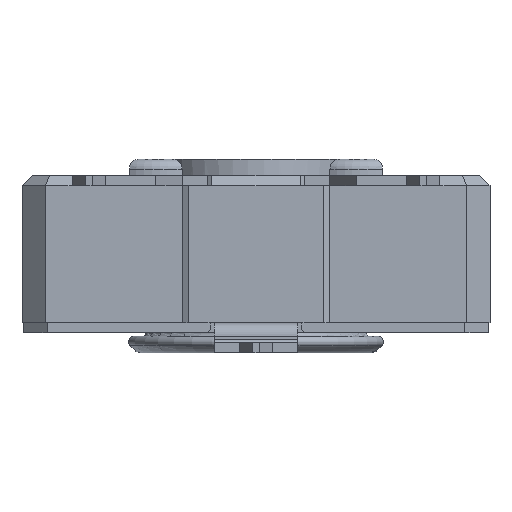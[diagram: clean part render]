
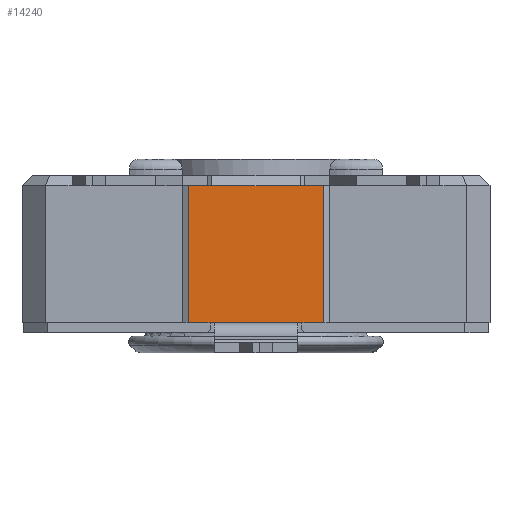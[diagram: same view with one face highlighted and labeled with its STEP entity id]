
A CAD part, front view. The second image highlights one B-rep face of the part: STEP entity #14240.
In plain terms, the highlighted planar face has unit normal (0, -1, 0).
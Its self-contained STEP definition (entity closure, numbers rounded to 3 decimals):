
#1297=FACE_OUTER_BOUND('',#2034,.T.);
#2034=EDGE_LOOP('',(#12216,#12217,#12218,#12219,#12220,#12221,#12222,#12223));
#2332=LINE('',#19738,#3892);
#2534=LINE('',#20546,#4094);
#2920=LINE('',#21511,#4480);
#2930=LINE('',#21534,#4490);
#3218=LINE('',#22453,#4778);
#3539=LINE('',#23152,#5099);
#3588=LINE('',#23254,#5148);
#3590=LINE('',#23257,#5150);
#3892=VECTOR('',#15980,10.);
#4094=VECTOR('',#16598,10.);
#4480=VECTOR('',#17300,10.);
#4490=VECTOR('',#17314,10.);
#4778=VECTOR('',#18042,10.);
#5099=VECTOR('',#18713,10.);
#5148=VECTOR('',#18860,10.);
#5150=VECTOR('',#18864,10.);
#5422=VERTEX_POINT('',#19735);
#5423=VERTEX_POINT('',#19737);
#5646=VERTEX_POINT('',#20544);
#5647=VERTEX_POINT('',#20545);
#5960=VERTEX_POINT('',#21509);
#5971=VERTEX_POINT('',#21533);
#6242=VERTEX_POINT('',#22452);
#6429=VERTEX_POINT('',#23151);
#6802=EDGE_CURVE('',#5423,#5422,#2332,.T.);
#7131=EDGE_CURVE('',#5646,#5647,#2534,.T.);
#7574=EDGE_CURVE('',#5960,#5646,#2920,.T.);
#7585=EDGE_CURVE('',#5647,#5971,#2930,.T.);
#7982=EDGE_CURVE('',#5423,#6242,#3218,.T.);
#8327=EDGE_CURVE('',#6429,#6242,#3539,.T.);
#8377=EDGE_CURVE('',#5960,#6429,#3588,.T.);
#8379=EDGE_CURVE('',#5971,#5422,#3590,.T.);
#12216=ORIENTED_EDGE('',*,*,#7982,.F.);
#12217=ORIENTED_EDGE('',*,*,#6802,.T.);
#12218=ORIENTED_EDGE('',*,*,#8379,.F.);
#12219=ORIENTED_EDGE('',*,*,#7585,.F.);
#12220=ORIENTED_EDGE('',*,*,#7131,.F.);
#12221=ORIENTED_EDGE('',*,*,#7574,.F.);
#12222=ORIENTED_EDGE('',*,*,#8377,.T.);
#12223=ORIENTED_EDGE('',*,*,#8327,.T.);
#12896=PLANE('',#15296);
#14240=ADVANCED_FACE('',(#1297),#12896,.T.);
#15296=AXIS2_PLACEMENT_3D('',#23256,#18862,#18863);
#15980=DIRECTION('',(-1.,0.,0.));
#16598=DIRECTION('',(-1.,0.,0.));
#17300=DIRECTION('',(-1.,0.,0.));
#17314=DIRECTION('',(-1.,0.,0.));
#18042=DIRECTION('',(1.,0.,0.));
#18713=DIRECTION('',(-1.,0.,0.));
#18860=DIRECTION('',(0.,0.,1.));
#18862=DIRECTION('center_axis',(0.,-1.,0.));
#18863=DIRECTION('ref_axis',(0.,0.,-1.));
#18864=DIRECTION('',(0.,0.,1.));
#19735=CARTESIAN_POINT('',(-2.027,-7.05,1.875));
#19737=CARTESIAN_POINT('',(-1.325,-7.05,1.875));
#19738=CARTESIAN_POINT('',(-0.913,-7.05,1.875));
#20544=CARTESIAN_POINT('',(1.25,-7.05,-2.225));
#20545=CARTESIAN_POINT('',(-1.25,-7.05,-2.225));
#20546=CARTESIAN_POINT('',(2.027,-7.05,-2.225));
#21509=CARTESIAN_POINT('',(2.027,-7.05,-2.225));
#21511=CARTESIAN_POINT('',(2.027,-7.05,-2.225));
#21533=CARTESIAN_POINT('',(-2.027,-7.05,-2.225));
#21534=CARTESIAN_POINT('',(2.027,-7.05,-2.225));
#22452=CARTESIAN_POINT('',(1.325,-7.05,1.875));
#22453=CARTESIAN_POINT('',(1.013,-7.05,1.875));
#23151=CARTESIAN_POINT('',(2.027,-7.05,1.875));
#23152=CARTESIAN_POINT('',(2.936,-7.05,1.875));
#23254=CARTESIAN_POINT('',(2.027,-7.05,-2.225));
#23256=CARTESIAN_POINT('Origin',(2.027,-7.05,-2.225));
#23257=CARTESIAN_POINT('',(-2.027,-7.05,-2.225));
